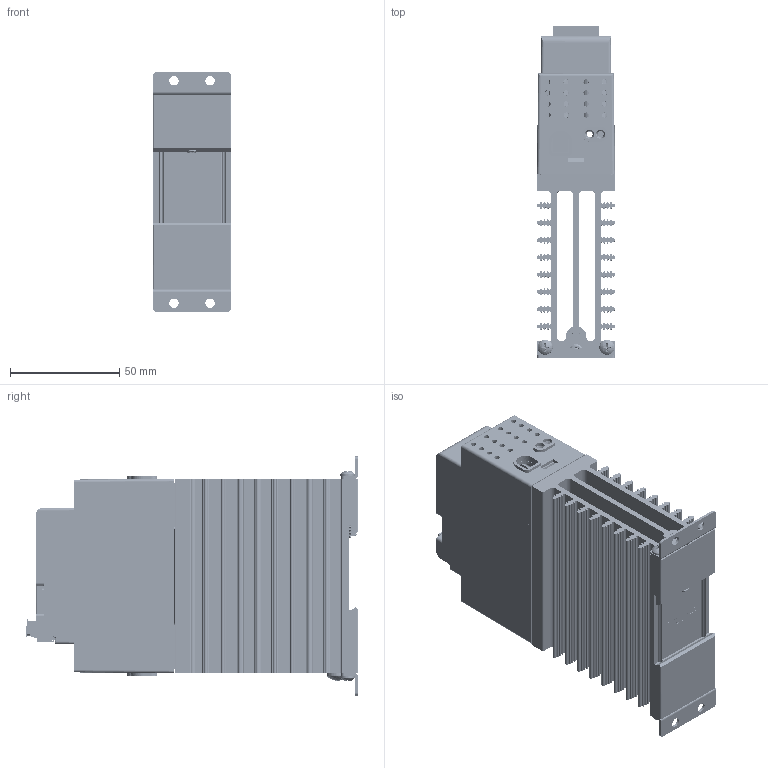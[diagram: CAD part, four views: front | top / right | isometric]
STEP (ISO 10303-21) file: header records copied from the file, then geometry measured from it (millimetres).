
FILE_DESCRIPTION(/* description */ (''),/* implementation_level */ '2;1');
FILE_NAME(/* name */ '1-phase EtherCAT 32A w-tabs.stp',/* time_stamp */ '2024-11-12T08:49:46-06:00',/* author */ ('ErikG'),/* organization */ (''),/* preprocessor_version */ 'ST-DEVELOPER v20',/* originating_system */ 'Autodesk Inventor 2025',/* authorisation */ '');
FILE_SCHEMA (('AUTOMOTIVE_DESIGN { 1 0 10303 214 3 1 1 }'));
Products named in the file (32): 3001631e; 3001761; 1001600G; P11; P6; fci 6 pin header OQ06120000J0G; fci 6 pin headerOQ06120000J0G half 1; fci 5 pin header OQ05120000J0G half 2; fci 6 pin connector TS06110B00J0G; fci 5 pin connector TS05110B00J0G LEFT HALF; fci 5 pin connector TS05110B00J0G RIGHT HALF; P3; usb-c31-s-vt-cs4-bk-pp-t-r-model ADAMTECH; P5; 74990101210 (rev1); base; shielding; top board erase; SW3; SW2; SH-7070TA; _SH-7070A_body; _SH-700-Without knob (Minus slot); 3001763; 3001755; 3001756; 3001749; 0060702-1032-0375; 3001752; 0060002-0632-0375; 0060783-0610-010.ipt; spring
Assembly tree (39 placements, depth 6):
  3001631e
    3001761  x3
    1001600G
      P11
        74990101210 (rev1)
          base
          shielding
      P6
        fci 6 pin header OQ06120000J0G
          fci 6 pin headerOQ06120000J0G half 1
          fci 5 pin header OQ05120000J0G half 2
          fci 6 pin connector TS06110B00J0G
            fci 5 pin connector TS05110B00J0G LEFT HALF
            fci 5 pin connector TS05110B00J0G RIGHT HALF
      P3
        usb-c31-s-vt-cs4-bk-pp-t-r-model ADAMTECH
      P5
        74990101210 (rev1)
          base
          shielding
      top board erase
        SW3
          SH-7070TA
            _SH-7070A_body
            _SH-700-Without knob (Minus slot)
        SW2
          SH-7070TA
            _SH-7070A_body
            _SH-700-Without knob (Minus slot)
    3001763
    3001755
    3001756
    3001749
    0060702-1032-0375
    3001752  x2
    0060002-0632-0375  x4
    0060783-0610-010.ipt
    spring
Bounding box: 35.56 x 151.58 x 109.22 mm (x, y, z)
Volume: 167375.3 mm3; surface area: 168308.4 mm2
Topology: 30 solids, 120 shells, 9425 faces, 26264 edges, 17231 vertices
Faces by surface type: plane 7309, cylinder 1589, cone 241, bspline 174, torus 89, sphere 23
Full cylindrical faces by diameter (mm): 0.254 x1, 0.45 x2, 0.55 x2, 0.65 x2, 1 x2, 1.2 x2, 2.3 x12, 2.642 x3, 2.95 x6, 3.277 x2, 3.28 x2, 3.3 x2, 3.4 x2, 3.42 x2, 3.505 x4, 4 x2, 4.318 x8, 4.826 x1, 4.917 x1, 6 x1, 6.172 x1, 6.858 x4, 9.474 x1
Entity records: 244497 total; most frequent: CARTESIAN_POINT 58165, ORIENTED_EDGE 39454, DIRECTION 36297, EDGE_CURVE 19727, LINE 15651, VECTOR 15651, VERTEX_POINT 12951, AXIS2_PLACEMENT_3D 10323
